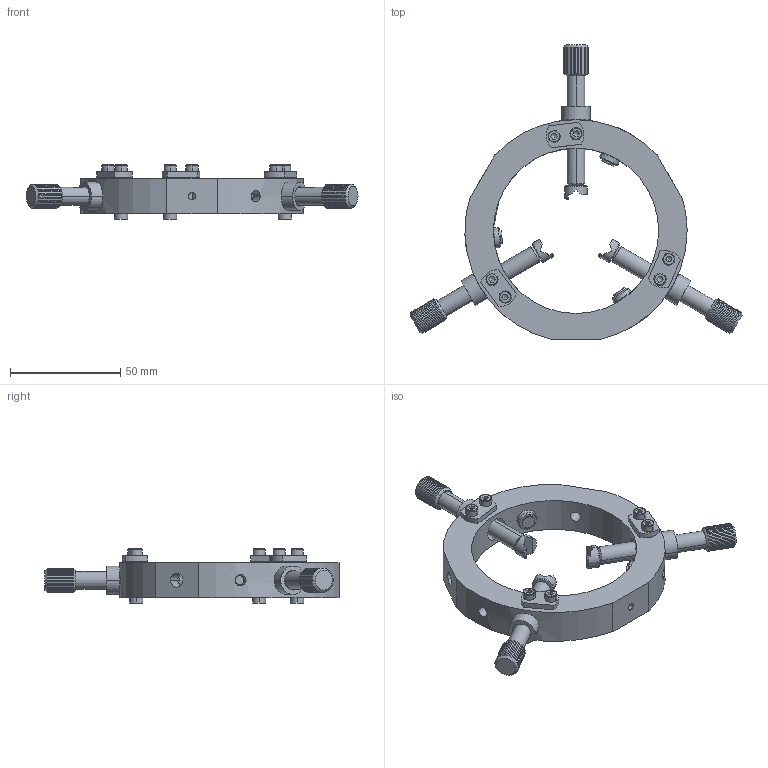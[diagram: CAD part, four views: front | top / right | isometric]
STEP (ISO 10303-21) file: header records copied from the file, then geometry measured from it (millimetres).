
FILE_DESCRIPTION (( 'STEP AP203' ), '1' );
FILE_NAME ('4LM149-05.STEP', '2012-03-06T11:30:59', ( 'vadybininkas6' ), ( '' ), 'SwSTEP 2.0', 'SolidWorks 2003240', '' );
FILE_SCHEMA (( 'CONFIG_CONTROL_DESIGN' ));
Length unit declared in the file: millimetre
Products named in the file (1): 4LM149-05
Bounding box: 150.59 x 133.44 x 24.5 mm (x, y, z)
Volume: 67481 mm3; surface area: 27785.9 mm2
Topology: 1 solids, 25 shells, 643 faces, 1599 edges, 1031 vertices
Faces by surface type: plane 308, cylinder 213, cone 104, bspline 18
Entity records: 23379 total; most frequent: CARTESIAN_POINT 8697, ORIENTED_EDGE 3150, DIRECTION 2799, EDGE_CURVE 1575, AXIS2_PLACEMENT_3D 1107, VERTEX_POINT 1031, EDGE_LOOP 742, FACE_OUTER_BOUND 643
